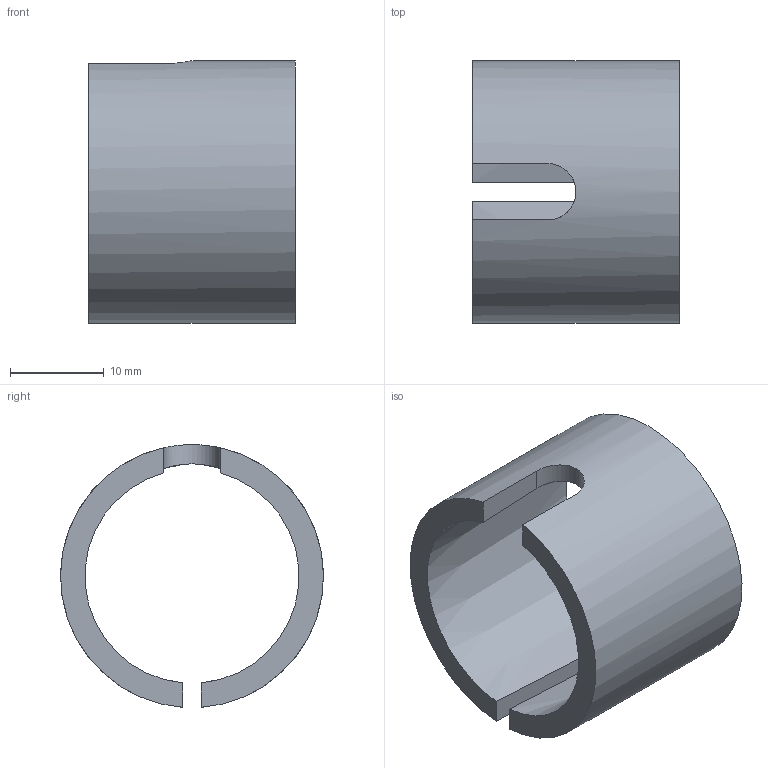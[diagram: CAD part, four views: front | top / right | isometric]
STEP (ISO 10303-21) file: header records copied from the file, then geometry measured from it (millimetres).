
FILE_DESCRIPTION( ( '' ), '1' );
FILE_NAME( 'W:/Catalogue/JF6H/JF6H_OPTION/JF6H42_Sleeve.stp', '2008-05-26T01:07:32', ( '機械事業部産業機器グループ' ), ( '豊和工業株式会社' ), 'XStep 1.0', ' ', ' ' );
FILE_SCHEMA( ( 'CONFIG_CONTROL_DESIGN' ) );
Length unit declared in the file: millimetre
Products named in the file (1): 1
Bounding box: 22 x 28 x 27.96 mm (x, y, z)
Volume: 3432.8 mm3; surface area: 3834 mm2
Topology: 1 solids, 1 shells, 10 faces, 24 edges, 16 vertices
Faces by surface type: plane 7, cylinder 2, cone 1
Entity records: 414 total; most frequent: CARTESIAN_POINT 139, ORIENTED_EDGE 48, DIRECTION 46, EDGE_CURVE 24, AXIS2_PLACEMENT_3D 17, VERTEX_POINT 16, LINE 12, VECTOR 12
